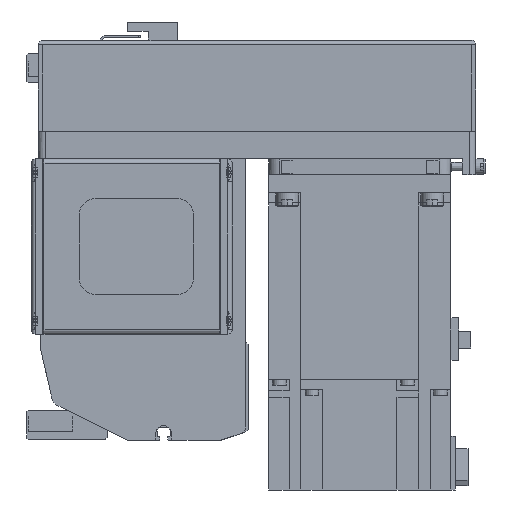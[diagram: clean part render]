
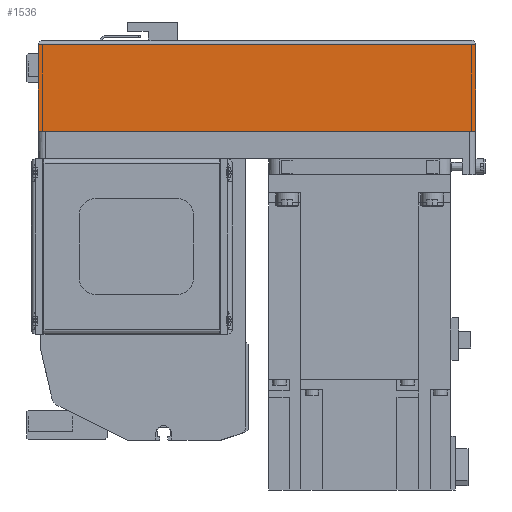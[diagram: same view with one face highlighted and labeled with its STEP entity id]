
A CAD part, left-side view. The second image highlights one B-rep face of the part: STEP entity #1536.
In plain terms, the highlighted planar face has unit normal (-1, 0, 0) as drawn and (0, -1, 0) by its records, which use the part's own axes.
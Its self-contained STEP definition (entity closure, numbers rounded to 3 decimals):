
#1536 = ADVANCED_FACE( '', ( #3975 ), #3976, .T. );
#3975 = FACE_OUTER_BOUND( '', #7655, .T. );
#3976 = PLANE( '', #7656 );
#7655 = EDGE_LOOP( '', ( #12001, #12002, #12003, #12004 ) );
#7656 = AXIS2_PLACEMENT_3D( '', #12005, #12006, #12007 );
#12001 = ORIENTED_EDGE( '', *, *, #20827, .F. );
#12002 = ORIENTED_EDGE( '', *, *, #21294, .F. );
#12003 = ORIENTED_EDGE( '', *, *, #21295, .T. );
#12004 = ORIENTED_EDGE( '', *, *, #21296, .T. );
#12005 = CARTESIAN_POINT( '', ( -192., -40., -12.1 ) );
#12006 = DIRECTION( '', ( 0., -1., 0. ) );
#12007 = DIRECTION( '', ( 0., 0., -1. ) );
#20827 = EDGE_CURVE( '', #24764, #24765, #24766, .T. );
#21294 = EDGE_CURVE( '', #25574, #24764, #25575, .T. );
#21295 = EDGE_CURVE( '', #25574, #25576, #25577, .T. );
#21296 = EDGE_CURVE( '', #25576, #24765, #25578, .T. );
#24764 = VERTEX_POINT( '', #30638 );
#24765 = VERTEX_POINT( '', #30639 );
#24766 = LINE( '', #30640, #30641 );
#25574 = VERTEX_POINT( '', #31814 );
#25575 = LINE( '', #31815, #31816 );
#25576 = VERTEX_POINT( '', #31817 );
#25577 = LINE( '', #31818, #31819 );
#25578 = LINE( '', #31820, #31821 );
#30638 = CARTESIAN_POINT( '', ( 0., -40., -12.1 ) );
#30639 = CARTESIAN_POINT( '', ( 0., -40., -50. ) );
#30640 = CARTESIAN_POINT( '', ( 0., -40., -12.1 ) );
#30641 = VECTOR( '', #39030, 1000. );
#31814 = CARTESIAN_POINT( '', ( -192., -40., -12.1 ) );
#31815 = CARTESIAN_POINT( '', ( -192., -40., -12.1 ) );
#31816 = VECTOR( '', #39621, 1000. );
#31817 = CARTESIAN_POINT( '', ( -192., -40., -50. ) );
#31818 = CARTESIAN_POINT( '', ( -192., -40., -12.1 ) );
#31819 = VECTOR( '', #39622, 1000. );
#31820 = CARTESIAN_POINT( '', ( -192., -40., -50. ) );
#31821 = VECTOR( '', #39623, 1000. );
#39030 = DIRECTION( '', ( 0., 0., -1. ) );
#39621 = DIRECTION( '', ( 1., 0., 0. ) );
#39622 = DIRECTION( '', ( 0., 0., -1. ) );
#39623 = DIRECTION( '', ( 1., 0., 0. ) );
